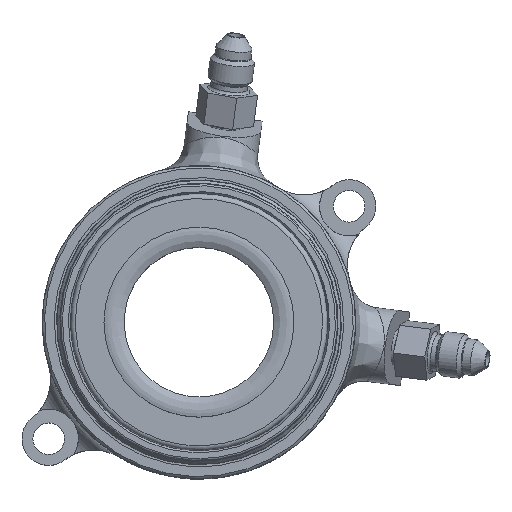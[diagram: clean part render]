
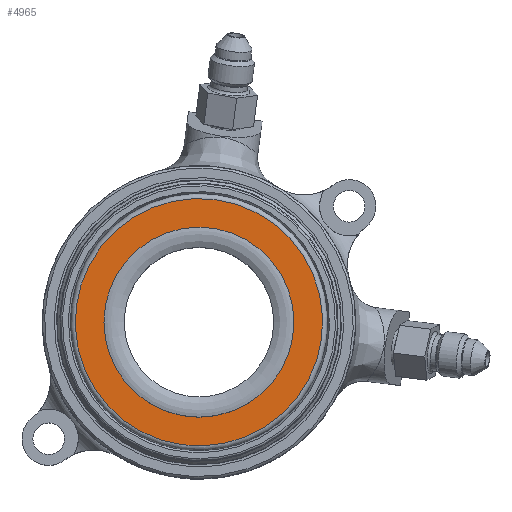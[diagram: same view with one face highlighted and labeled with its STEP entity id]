
A CAD part, top view. The second image highlights one B-rep face of the part: STEP entity #4965.
In plain terms, the highlighted planar face has unit normal (0, 0, 1).
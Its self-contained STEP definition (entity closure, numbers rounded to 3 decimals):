
#1694=ORIENTED_EDGE('',*,*,#2133,.T.);
#1695=ORIENTED_EDGE('',*,*,#2135,.T.);
#2133=EDGE_CURVE('',#2458,#2458,#2612,.F.);
#2135=EDGE_CURVE('',#2460,#2460,#2614,.T.);
#2458=VERTEX_POINT('',#8636);
#2460=VERTEX_POINT('',#8642);
#2612=CIRCLE('',#5300,19.812);
#2614=CIRCLE('',#5304,26.461);
#2908=EDGE_LOOP('',(#1694));
#2909=EDGE_LOOP('',(#1695));
#3213=FACE_BOUND('',#2908,.T.);
#3214=FACE_BOUND('',#2909,.T.);
#3319=PLANE('',#5303);
#4965=ADVANCED_FACE('',(#3213,#3214),#3319,.T.);
#5300=AXIS2_PLACEMENT_3D('',#8635,#6129,#6130);
#5303=AXIS2_PLACEMENT_3D('',#8640,#6135,#6136);
#5304=AXIS2_PLACEMENT_3D('',#8641,#6137,#6138);
#6129=DIRECTION('',(0.,0.,1.));
#6130=DIRECTION('',(1.,0.,0.));
#6135=DIRECTION('',(0.,0.,1.));
#6136=DIRECTION('',(0.924,0.383,0.));
#6137=DIRECTION('',(0.,0.,1.));
#6138=DIRECTION('',(0.383,-0.924,0.));
#8635=CARTESIAN_POINT('',(0.,0.,66.726));
#8636=CARTESIAN_POINT('',(19.812,0.,66.726));
#8640=CARTESIAN_POINT('',(-14.479,-34.994,66.726));
#8641=CARTESIAN_POINT('',(0.,0.,66.726));
#8642=CARTESIAN_POINT('',(10.136,-24.443,66.726));
